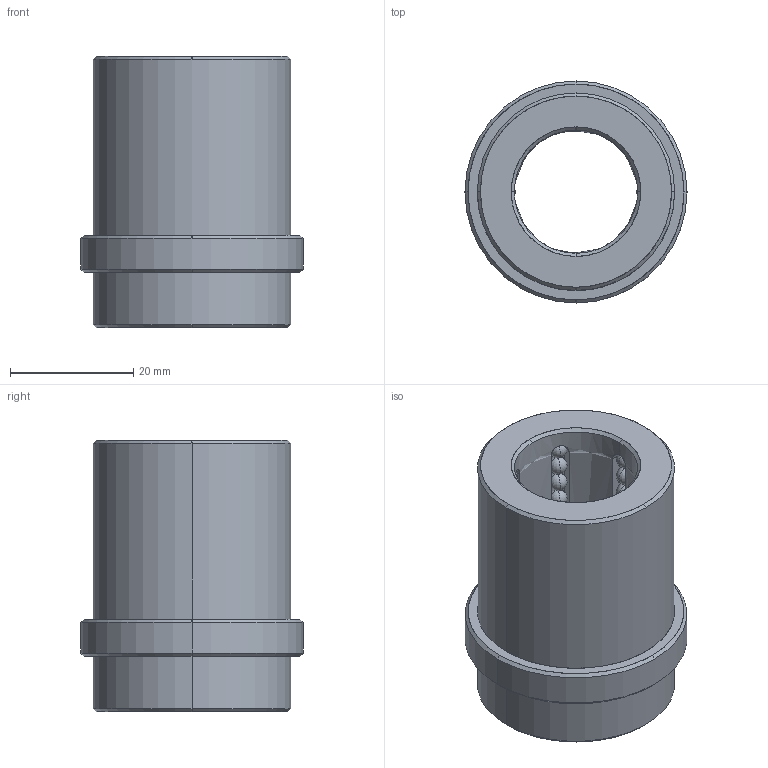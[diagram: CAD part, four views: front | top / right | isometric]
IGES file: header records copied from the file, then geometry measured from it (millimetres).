
Start section: START RECORD GO HERE.
Global section: file name: B8022035.igs; native system: DASSAULT SYSTEMES CATIA V5 R20 - www.3ds.com; preprocessor: CATIA Version 5 Release 20 ; author: Utente; organization: NB04-ASUS; date: 20200419.150226; units: millimetre
Bounding box: 36 x 36 x 44 mm (x, y, z)
Surface area: 11976.9 mm2 (no closed solid volume)
Topology: 0 solids, 0 shells, 354 faces, 1476 edges, 900 vertices
Faces by surface type: revolution 332, plane 22
